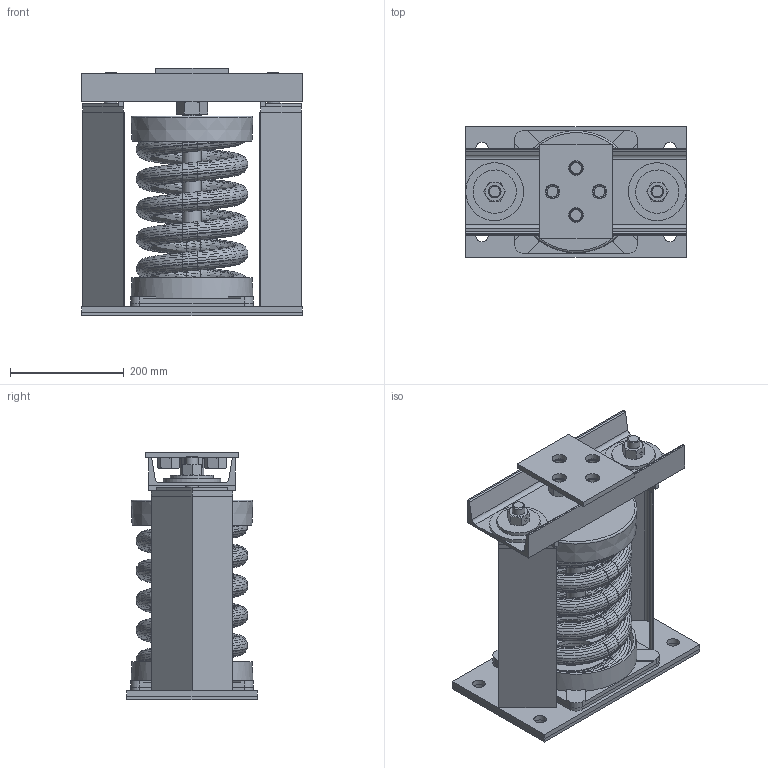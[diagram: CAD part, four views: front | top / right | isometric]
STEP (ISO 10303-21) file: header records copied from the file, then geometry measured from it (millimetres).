
FILE_DESCRIPTION(/* description */ (''),/* implementation_level */ '2;1');
FILE_NAME(/* name */ 'C:\001_Work\Designs\SLR-100 SERIES\SLR 100 SERIES (NON STOCK MOUNTS)\SLR 139, 160-161\SLR-139.stp',/* time_stamp */ '2016-01-19T13:50:38-05:00',/* author */ ('rramoutar'),/* organization */ ('Mason Industries Inc.'),/* preprocessor_version */ 'ST-DEVELOPER v15.6',/* originating_system */ 'Autodesk Inventor 2015',/* authorisation */ '');
FILE_SCHEMA (('CONFIG_CONTROL_DESIGN'));
Products named in the file (1): SLR-139 PER A-21768-2
Bounding box: 387.35 x 228.6 x 434.98 mm (x, y, z)
Volume: 5137087.2 mm3; surface area: 2032464.1 mm2
Topology: 31 solids, 31 shells, 1056 faces, 2273 edges, 1293 vertices
Faces by surface type: bspline 540, plane 314, cone 122, cylinder 76, torus 4
Full cylindrical faces by diameter (mm): 9.525 x2, 11.112 x1, 12.7 x4, 19.177 x6, 22.225 x10, 22.733 x2, 23.812 x4, 25.4 x4, 28.178 x1, 31.75 x1, 33.325 x2, 35.052 x1, 41.275 x2, 42.164 x1, 47.623 x2, 47.625 x3, 76.2 x2, 101.6 x4, 201.612 x2
Entity records: 49985 total; most frequent: CARTESIAN_POINT 30980, ORIENTED_EDGE 4330, DIRECTION 2194, EDGE_CURVE 2165, VERTEX_POINT 1263, EDGE_LOOP 1212, B_SPLINE_CURVE_WITH_KNOTS 1092, STYLED_ITEM 1087
